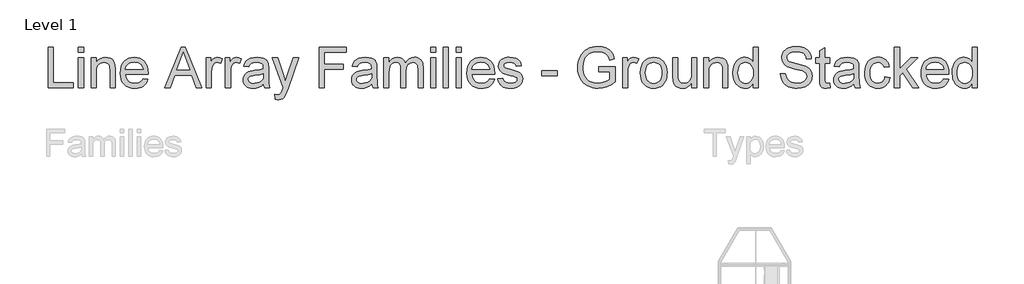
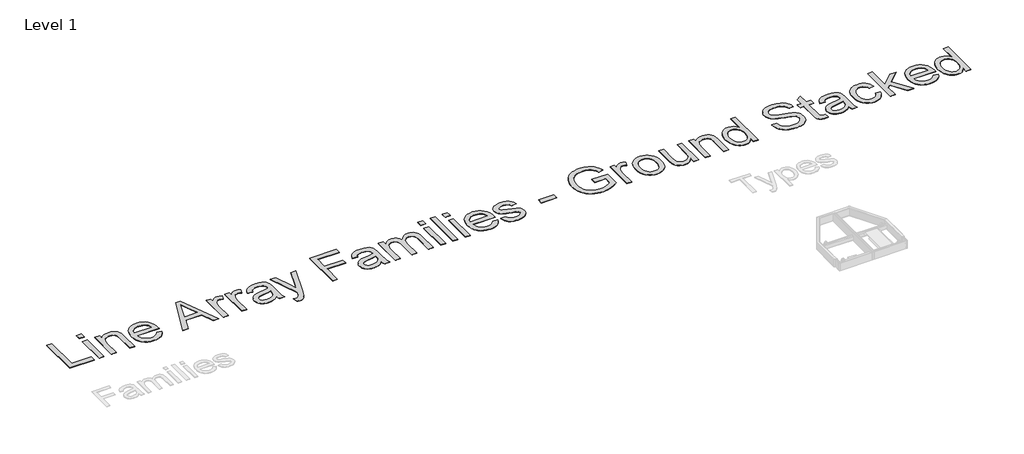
# One storey, part 3 of 7: 1 proxy.
"""IFC4 building model written with IfcOpenShell, lengths in millimetres."""

from ifc_helpers import new_model, si_unit, origin, origin_with_axes, place, context, project, spatial, polyline, outline, extrude, element, save

model = new_model("IFC4")

# Units and contexts
model_context = context("Model", 3, world=origin())
ifc_project = project(units=[si_unit("LENGTHUNIT", "METRE", prefix="MILLI")], contexts=[model_context])

# Site, building, storey
site = spatial("IfcSite", under=ifc_project)
building = spatial("IfcBuilding", under=site)
storey = spatial("IfcBuildingStorey", under=building, Name="Level 1", Elevation=0.0)

# Proxy
placement = place(None, origin())
element("IfcBuildingElementProxy", 1, Name="600mm Arial", ObjectType="600mm Arial", at=placement, inside=storey, context=model_context, shape_type="SweptSolid", body=[
    extrude(outline(polyline([(-21034.9539913, -1748.6945164), (-21034.9539913, -1157.9252857), (-20961.1078374, -1157.9252857), (-20961.1078374, -1674.8483626), (-20665.723222, -1674.8483626), (-20665.723222, -1748.6945164), (-21034.9539913, -1748.6945164)])), origin_with_axes(), (0.0, 0.0, 1.0), 5.0),
    extrude(outline(polyline([(-20591.8770682, -1231.7714395), (-20591.8770682, -1157.9252857), (-20518.0309143, -1157.9252857), (-20518.0309143, -1231.7714395), (-20591.8770682, -1231.7714395)])), origin_with_axes(), (0.0, 0.0, 1.0), 5.0),
    extrude(outline(polyline([(-20591.8770682, -1748.6945164), (-20591.8770682, -1314.8483626), (-20518.0309143, -1314.8483626), (-20518.0309143, -1748.6945164), (-20591.8770682, -1748.6945164)])), origin_with_axes(), (0.0, 0.0, 1.0), 5.0),
    extrude(outline(polyline([(-20407.2616836, -1748.6945164), (-20407.2616836, -1314.8483626), (-20333.4155297, -1314.8483626), (-20333.4155297, -1375.4252857), (-20307.7604817, -1344.8844203), (-20276.9491836, -1323.0695164), (-20240.9816355, -1309.9805741), (-20199.8578374, -1305.6175934), (-20163.457597, -1309.1332184), (-20130.1222605, -1319.6800934), (-20102.3217797, -1335.9421126), (-20082.5261067, -1356.6031703), (-20069.0946163, -1381.6091799), (-20060.3866836, -1410.9060549), (-20056.4924528, -1482.3002857), (-20056.4924528, -1748.6945164), (-20130.3386067, -1748.6945164), (-20130.3386067, -1492.2522087), (-20132.4660105, -1454.0671126), (-20138.848222, -1426.9156703), (-20150.6210586, -1407.4625453), (-20168.9203374, -1392.372401), (-20192.3758663, -1382.6909107), (-20219.6174528, -1379.4637472), (-20242.0408302, -1381.2756462), (-20262.8686547, -1386.7113434), (-20282.1009264, -1395.7708385), (-20299.7376451, -1408.4541318), (-20314.4717196, -1426.2035309), (-20324.9960586, -1450.4613434), (-20331.3106619, -1481.2275693), (-20333.4155297, -1518.5022087), (-20333.4155297, -1748.6945164), (-20407.2616836, -1748.6945164)])), origin_with_axes(), (0.0, 0.0, 1.0), 5.0),
    extrude(outline(polyline([(-19651.2039913, -1619.4637472), (-19578.8001451, -1628.6945164), (-19589.9014071, -1657.6939155), (-19604.8878855, -1683.2498049), (-19623.7595802, -1705.3621847), (-19646.5164913, -1724.0310549), (-19672.9242437, -1738.8597809), (-19702.7484624, -1749.451728), (-19735.9891475, -1755.8068962), (-19772.646299, -1757.9252857), (-19818.4666115, -1754.2699371), (-19859.2929336, -1743.3038914), (-19895.1252653, -1725.0271486), (-19925.9636067, -1699.4397087), (-19950.7622845, -1667.2537111), (-19968.4756259, -1629.1812953), (-19979.1036307, -1585.2224611), (-19982.646299, -1535.3772087), (-19979.067573, -1483.841752), (-19968.3313951, -1438.4180741), (-19950.4377653, -1399.1061751), (-19925.3866836, -1365.9060549), (-19894.629472, -1339.529853), (-19859.6174528, -1320.6897087), (-19820.3506259, -1309.3856222), (-19776.8289913, -1305.6175934), (-19734.7090994, -1309.3766078), (-19696.6186547, -1320.653651), (-19662.5576571, -1339.4487232), (-19632.5261067, -1365.7618241), (-19608.0113831, -1398.8898289), (-19590.5008663, -1438.1296126), (-19579.9945562, -1483.4811751), (-19576.4924528, -1534.9445164), (-19576.9251451, -1554.8483626), (-19908.8001451, -1554.8483626), (-19904.5228014, -1584.3165116), (-19896.0176932, -1610.1248049), (-19883.2848206, -1632.2732424), (-19866.3241836, -1650.7618241), (-19846.0732821, -1665.3381462), (-19823.4696163, -1675.7498049), (-19798.513186, -1681.9968001), (-19771.2039913, -1684.0791318), (-19731.9011067, -1680.2209587), (-19698.8001451, -1668.6464395), (-19671.9011067, -1648.6344203), (-19651.2039913, -1619.4637472)]), holes=[polyline([(-19908.8001451, -1481.0022087), (-19650.3386067, -1481.0022087), (-19660.3265874, -1441.9877857), (-19668.9173326, -1426.6452376), (-19679.9059143, -1414.0791318), (-19700.0441355, -1398.934901), (-19722.958799, -1388.1175934), (-19748.6499047, -1381.6272087), (-19777.1174528, -1379.4637472), (-19803.0834985, -1381.1900092), (-19826.895097, -1386.3687953), (-19848.5522485, -1395.0001054), (-19868.0549528, -1407.0839395), (-19884.4206379, -1422.0614034), (-19896.6667317, -1439.373603), (-19904.7932341, -1459.0205381), (-19908.8001451, -1481.0022087)])]), origin_with_axes(), (0.0, 0.0, 1.0), 5.0),
    extrude(outline(polyline([(-19331.4443759, -1748.6945164), (-19095.6270682, -1157.9252857), (-19032.7424528, -1157.9252857), (-18796.9251451, -1748.6945164), (-18874.9539913, -1748.6945164), (-18942.598222, -1564.0791318), (-19185.9155297, -1564.0791318), (-19253.4155297, -1748.6945164), (-19331.4443759, -1748.6945164)]), holes=[polyline([(-19158.8001451, -1490.232978), (-18969.5693759, -1490.232978), (-19022.7905297, -1344.9925934), (-19064.1847605, -1231.7714395), (-19100.9636067, -1332.3002857), (-19158.8001451, -1490.232978)])]), origin_with_axes(), (0.0, 0.0, 1.0), 5.0),
    extrude(outline(polyline([(-18727.2616836, -1748.6945164), (-18727.2616836, -1314.8483626), (-18662.646299, -1314.8483626), (-18662.646299, -1379.0310549), (-18638.7761067, -1341.8195164), (-18616.7809143, -1319.8964395), (-18594.7136067, -1309.1873049), (-18570.6270682, -1305.6175934), (-18533.848222, -1311.3147087), (-18496.4924528, -1328.4060549), (-18521.1559143, -1394.607978), (-18547.1174528, -1383.2498049), (-18573.0789913, -1379.4637472), (-18595.1282701, -1383.1055741), (-18614.833799, -1394.0310549), (-18630.7532701, -1411.4108626), (-18641.4443759, -1434.4156703), (-18650.4227413, -1475.6656703), (-18653.4155297, -1520.6656703), (-18653.4155297, -1748.6945164), (-18727.2616836, -1748.6945164)])), origin_with_axes(), (0.0, 0.0, 1.0), 5.0),
    extrude(outline(polyline([(-18450.3386067, -1748.6945164), (-18450.3386067, -1314.8483626), (-18385.723222, -1314.8483626), (-18385.723222, -1379.0310549), (-18361.8530297, -1341.8195164), (-18339.8578374, -1319.8964395), (-18317.7905297, -1309.1873049), (-18293.7039913, -1305.6175934), (-18256.9251451, -1311.3147087), (-18219.5693759, -1328.4060549), (-18244.2328374, -1394.607978), (-18270.1943759, -1383.2498049), (-18296.1559143, -1379.4637472), (-18318.2051932, -1383.1055741), (-18337.910722, -1394.0310549), (-18353.8301932, -1411.4108626), (-18364.521299, -1434.4156703), (-18373.4996643, -1475.6656703), (-18376.4924528, -1520.6656703), (-18376.4924528, -1748.6945164), (-18450.3386067, -1748.6945164)])), origin_with_axes(), (0.0, 0.0, 1.0), 5.0),
    extrude(outline(polyline([(-17896.4924528, -1693.309901), (-17931.7749047, -1723.5623049), (-17968.1030297, -1743.357978), (-18006.3061547, -1754.2834587), (-18047.2136067, -1757.9252857), (-18080.0937148, -1755.7347809), (-18108.926347, -1749.1632664), (-18133.7115033, -1738.2107424), (-18154.4491836, -1722.8772087), (-18170.8238831, -1704.1362232), (-18182.520097, -1682.9613434), (-18189.5378254, -1659.3525693), (-18191.8770682, -1633.309901), (-18188.3434143, -1602.6969203), (-18177.7424528, -1574.8964395), (-18161.3902893, -1551.0983626), (-18140.6030297, -1532.4925934), (-18116.1739432, -1518.4300934), (-18088.896299, -1508.2618241), (-18025.0020682, -1497.1560549), (-17949.4972605, -1485.4733626), (-17896.9251451, -1471.7714395), (-17896.4924528, -1455.3291318), (-17901.5765874, -1422.372401), (-17907.9317557, -1410.1668722), (-17916.8289913, -1400.809901), (-17932.207597, -1391.4709587), (-17950.9395682, -1384.8002857), (-17998.4636067, -1379.4637472), (-18042.4539913, -1383.0154299), (-18073.1751451, -1393.670478), (-18094.1246643, -1413.3760068), (-18108.8001451, -1444.0791318), (-18182.646299, -1434.8483626), (-18169.8277893, -1394.4637472), (-18150.6991836, -1362.732978), (-18123.4756259, -1338.466151), (-18086.3722605, -1320.4733626), (-18040.9936547, -1309.3315357), (-17988.9443759, -1305.6175934), (-17939.0225009, -1308.8988434), (-17899.4491836, -1318.7425934), (-17869.6114432, -1333.544276), (-17848.896299, -1351.6993241), (-17835.1583182, -1374.1452376), (-17826.2520682, -1401.8195164), (-17822.646299, -1466.434901), (-17822.646299, -1558.309901), (-17818.896299, -1686.6031703), (-17813.3434143, -1718.3159107), (-17804.1847605, -1748.6945164), (-17878.0309143, -1748.6945164), (-17889.8578374, -1723.0214395), (-17896.4924528, -1693.309901)]), holes=[polyline([(-17896.4924528, -1545.6175934), (-17946.1078374, -1557.9132664), (-18015.6270682, -1568.2618241), (-18079.160722, -1580.232978), (-18095.693174, -1588.4180741), (-18107.9347605, -1599.7041318), (-18115.5068759, -1613.2257664), (-18118.0309143, -1628.1175934), (-18112.5321163, -1650.076728), (-18096.035722, -1668.0695164), (-18068.9023086, -1680.076728), (-18031.4924528, -1684.0791318), (-17991.8289913, -1679.6620645), (-17956.7809143, -1666.4108626), (-17928.3674528, -1646.8856222), (-17908.6078374, -1623.6464395), (-17899.8458182, -1599.7041318), (-17896.9251451, -1566.5310549), (-17896.4924528, -1545.6175934)])]), origin_with_axes(), (0.0, 0.0, 1.0), 5.0),
    extrude(outline(polyline([(-17721.1078374, -1914.8483626), (-17730.3386067, -1843.7425934), (-17692.8386067, -1850.232978), (-17673.115049, -1848.1957184), (-17657.7905297, -1842.0839395), (-17645.8554336, -1832.3303337), (-17636.3001451, -1819.3675934), (-17616.1078374, -1764.9925934), (-17610.3386067, -1747.107978), (-17767.2616836, -1314.8483626), (-17689.3770682, -1314.8483626), (-17606.1559143, -1555.7137472), (-17577.1655297, -1652.059901), (-17548.1751451, -1566.9637472), (-17462.646299, -1314.8483626), (-17385.3386067, -1314.8483626), (-17536.348222, -1759.0791318), (-17575.5789913, -1855.4252857), (-17595.6631259, -1886.1824972), (-17618.4155297, -1907.4925934), (-17644.8458182, -1919.9324972), (-17675.9636067, -1924.0791318), (-17697.3458182, -1921.7714395), (-17721.1078374, -1914.8483626)])), origin_with_axes(), (0.0, 0.0, 1.0), 5.0),
    extrude(outline(polyline([(-17084.1847605, -1748.6945164), (-17084.1847605, -1157.9252857), (-16687.2616836, -1157.9252857), (-16687.2616836, -1231.7714395), (-17010.3386067, -1231.7714395), (-17010.3386067, -1407.1560549), (-16733.4155297, -1407.1560549), (-16733.4155297, -1481.0022087), (-17010.3386067, -1481.0022087), (-17010.3386067, -1748.6945164), (-17084.1847605, -1748.6945164)])), origin_with_axes(), (0.0, 0.0, 1.0), 5.0),
    extrude(outline(polyline([(-16318.0309143, -1693.309901), (-16353.3133663, -1723.5623049), (-16389.6414913, -1743.357978), (-16427.8446163, -1754.2834587), (-16468.7520682, -1757.9252857), (-16501.6321764, -1755.7347809), (-16530.4648086, -1749.1632664), (-16555.2499648, -1738.2107424), (-16575.9876451, -1722.8772087), (-16592.3623446, -1704.1362232), (-16604.0585586, -1682.9613434), (-16611.0762869, -1659.3525693), (-16613.4155297, -1633.309901), (-16609.8818759, -1602.6969203), (-16599.2809143, -1574.8964395), (-16582.9287509, -1551.0983626), (-16562.1414913, -1532.4925934), (-16537.7124047, -1518.4300934), (-16510.4347605, -1508.2618241), (-16446.5405297, -1497.1560549), (-16371.035722, -1485.4733626), (-16318.4636067, -1471.7714395), (-16318.0309143, -1455.3291318), (-16323.115049, -1422.372401), (-16329.4702172, -1410.1668722), (-16338.3674528, -1400.809901), (-16353.7460586, -1391.4709587), (-16372.4780297, -1384.8002857), (-16420.0020682, -1379.4637472), (-16463.9924528, -1383.0154299), (-16494.7136067, -1393.670478), (-16515.6631259, -1413.3760068), (-16530.3386067, -1444.0791318), (-16604.1847605, -1434.8483626), (-16591.3662509, -1394.4637472), (-16572.2376451, -1362.732978), (-16545.0140874, -1338.466151), (-16507.910722, -1320.4733626), (-16462.5321163, -1309.3315357), (-16410.4828374, -1305.6175934), (-16360.5609624, -1308.8988434), (-16320.9876451, -1318.7425934), (-16291.1499047, -1333.544276), (-16270.4347605, -1351.6993241), (-16256.6967797, -1374.1452376), (-16247.7905297, -1401.8195164), (-16244.1847605, -1466.434901), (-16244.1847605, -1558.309901), (-16240.4347605, -1686.6031703), (-16234.8818759, -1718.3159107), (-16225.723222, -1748.6945164), (-16299.5693759, -1748.6945164), (-16311.396299, -1723.0214395), (-16318.0309143, -1693.309901)]), holes=[polyline([(-16318.0309143, -1545.6175934), (-16367.646299, -1557.9132664), (-16437.1655297, -1568.2618241), (-16500.6991836, -1580.232978), (-16517.2316355, -1588.4180741), (-16529.473222, -1599.7041318), (-16537.0453374, -1613.2257664), (-16539.5693759, -1628.1175934), (-16534.0705778, -1650.076728), (-16517.5741836, -1668.0695164), (-16490.4407701, -1680.076728), (-16453.0309143, -1684.0791318), (-16413.3674528, -1679.6620645), (-16378.3193759, -1666.4108626), (-16349.9059143, -1646.8856222), (-16330.146299, -1623.6464395), (-16321.3842797, -1599.7041318), (-16318.4636067, -1566.5310549), (-16318.0309143, -1545.6175934)])]), origin_with_axes(), (0.0, 0.0, 1.0), 5.0),
    extrude(outline(polyline([(-16142.646299, -1748.6945164), (-16142.646299, -1314.8483626), (-16068.8001451, -1314.8483626), (-16068.8001451, -1386.2425934), (-16046.5886067, -1353.4481222), (-16018.0309143, -1327.7570164), (-15984.1006259, -1311.1524491), (-15945.771299, -1305.6175934), (-15904.7015874, -1311.2606222), (-15887.2226211, -1318.3144083), (-15871.7809143, -1328.1897087), (-15847.1895682, -1355.2870645), (-15831.1078374, -1391.434901), (-15804.1907701, -1353.8898289), (-15773.4876451, -1327.0719203), (-15738.9984624, -1310.9811751), (-15700.723222, -1305.6175934), (-15671.1604216, -1307.8486631), (-15645.2124047, -1314.5418722), (-15622.8791716, -1325.6972208), (-15604.160722, -1341.3147087), (-15589.3635466, -1361.5746246), (-15578.7941355, -1386.6572568), (-15572.4524889, -1416.5626054), (-15570.3386067, -1451.2906703), (-15570.3386067, -1748.6945164), (-15644.1847605, -1748.6945164), (-15644.1847605, -1483.0214395), (-15645.8975009, -1446.1885068), (-15651.035722, -1421.3627857), (-15660.6631259, -1404.3615837), (-15675.8434143, -1391.0022087), (-15695.3686547, -1382.3483626), (-15718.0309143, -1379.4637472), (-15738.9578975, -1381.3117039), (-15758.036924, -1386.8555741), (-15775.2679937, -1396.0953578), (-15790.6511067, -1409.0310549), (-15803.3028494, -1426.0412712), (-15812.3398086, -1447.5046126), (-15817.7619841, -1473.4210789), (-15819.5693759, -1503.7906703), (-15819.5693759, -1748.6945164), (-15893.4155297, -1748.6945164), (-15893.4155297, -1474.8002857), (-15897.6883663, -1433.045478), (-15910.5068759, -1403.2618241), (-15920.4182341, -1392.8501655), (-15933.0609624, -1385.4132664), (-15948.435061, -1380.951127), (-15966.5405297, -1379.4637472), (-15994.990049, -1383.4300934), (-16021.2039913, -1395.3291318), (-16042.8386067, -1414.872401), (-16057.5501451, -1441.7714395), (-16065.9876451, -1479.091151), (-16068.8001451, -1529.8964395), (-16068.8001451, -1748.6945164), (-16142.646299, -1748.6945164)])), origin_with_axes(), (0.0, 0.0, 1.0), 5.0),
    extrude(outline(polyline([(-15459.5693759, -1231.7714395), (-15459.5693759, -1157.9252857), (-15385.723222, -1157.9252857), (-15385.723222, -1231.7714395), (-15459.5693759, -1231.7714395)])), origin_with_axes(), (0.0, 0.0, 1.0), 5.0),
    extrude(outline(polyline([(-15459.5693759, -1748.6945164), (-15459.5693759, -1314.8483626), (-15385.723222, -1314.8483626), (-15385.723222, -1748.6945164), (-15459.5693759, -1748.6945164)])), origin_with_axes(), (0.0, 0.0, 1.0), 5.0),
    extrude(outline(polyline([(-15274.9539913, -1748.6945164), (-15274.9539913, -1157.9252857), (-15201.1078374, -1157.9252857), (-15201.1078374, -1748.6945164), (-15274.9539913, -1748.6945164)])), origin_with_axes(), (0.0, 0.0, 1.0), 5.0),
    extrude(outline(polyline([(-15090.3386067, -1748.6945164), (-15090.3386067, -1314.8483626), (-15016.4924528, -1314.8483626), (-15016.4924528, -1748.6945164), (-15090.3386067, -1748.6945164)])), origin_with_axes(), (0.0, 0.0, 1.0), 5.0),
    extrude(outline(polyline([(-15090.3386067, -1231.7714395), (-15090.3386067, -1157.9252857), (-15016.4924528, -1157.9252857), (-15016.4924528, -1231.7714395), (-15090.3386067, -1231.7714395)])), origin_with_axes(), (0.0, 0.0, 1.0), 5.0),
    extrude(outline(polyline([(-14601.973222, -1619.4637472), (-14529.5693759, -1628.6945164), (-14540.6706379, -1657.6939155), (-14555.6571163, -1683.2498049), (-14574.528811, -1705.3621847), (-14597.285722, -1724.0310549), (-14623.6934744, -1738.8597809), (-14653.5176932, -1749.451728), (-14686.7583783, -1755.8068962), (-14723.4155297, -1757.9252857), (-14769.2358422, -1754.2699371), (-14810.0621643, -1743.3038914), (-14845.8944961, -1725.0271486), (-14876.7328374, -1699.4397087), (-14901.5315153, -1667.2537111), (-14919.2448567, -1629.1812953), (-14929.8728615, -1585.2224611), (-14933.4155297, -1535.3772087), (-14929.8368038, -1483.841752), (-14919.1006259, -1438.4180741), (-14901.2069961, -1399.1061751), (-14876.1559143, -1365.9060549), (-14845.3987028, -1339.529853), (-14810.3866836, -1320.6897087), (-14771.1198567, -1309.3856222), (-14727.598222, -1305.6175934), (-14685.4783302, -1309.3766078), (-14647.3878855, -1320.653651), (-14613.3268879, -1339.4487232), (-14583.2953374, -1365.7618241), (-14558.7806139, -1398.8898289), (-14541.270097, -1438.1296126), (-14530.7637869, -1483.4811751), (-14527.2616836, -1534.9445164), (-14527.6943759, -1554.8483626), (-14859.5693759, -1554.8483626), (-14855.2920321, -1584.3165116), (-14846.786924, -1610.1248049), (-14834.0540514, -1632.2732424), (-14817.0934143, -1650.7618241), (-14796.8425129, -1665.3381462), (-14774.238847, -1675.7498049), (-14749.2824167, -1681.9968001), (-14721.973222, -1684.0791318), (-14682.6703374, -1680.2209587), (-14649.5693759, -1668.6464395), (-14622.6703374, -1648.6344203), (-14601.973222, -1619.4637472)]), holes=[polyline([(-14859.5693759, -1481.0022087), (-14601.1078374, -1481.0022087), (-14611.0958182, -1441.9877857), (-14619.6865634, -1426.6452376), (-14630.6751451, -1414.0791318), (-14650.8133663, -1398.934901), (-14673.7280297, -1388.1175934), (-14699.4191355, -1381.6272087), (-14727.8866836, -1379.4637472), (-14753.8527292, -1381.1900092), (-14777.6643278, -1386.3687953), (-14799.3214792, -1395.0001054), (-14818.8241836, -1407.0839395), (-14835.1898687, -1422.0614034), (-14847.4359624, -1439.373603), (-14855.5624648, -1459.0205381), (-14859.5693759, -1481.0022087)])]), origin_with_axes(), (0.0, 0.0, 1.0), 5.0),
    extrude(outline(polyline([(-14481.1078374, -1619.4637472), (-14407.2616836, -1610.232978), (-14402.7995442, -1627.0719203), (-14395.615049, -1641.8195164), (-14385.708198, -1654.4757664), (-14373.0789913, -1665.0406703), (-14357.6913711, -1673.3699972), (-14339.5092797, -1679.3195164), (-14294.7616836, -1684.0791318), (-14250.5549528, -1679.716151), (-14233.3734624, -1674.2624251), (-14219.473222, -1666.6272087), (-14201.083799, -1647.6608626), (-14194.9539913, -1625.6656703), (-14196.4954576, -1615.6957184), (-14201.1198567, -1606.8435549), (-14219.6174528, -1592.4925934), (-14247.2737028, -1583.1175934), (-14295.6270682, -1571.434901), (-14363.0188951, -1551.9457184), (-14406.8289913, -1535.3050934), (-14434.9720201, -1517.1500453), (-14455.3626451, -1493.1175934), (-14467.7484624, -1464.7401895), (-14471.8770682, -1433.5502857), (-14468.5597605, -1404.9385068), (-14458.6078374, -1378.5262472), (-14442.9227413, -1355.3591799), (-14422.4059143, -1336.482978), (-14402.0152893, -1324.6019684), (-14375.458799, -1314.6320164), (-14344.755674, -1307.8711991), (-14311.9251451, -1305.6175934), (-14263.8602413, -1309.2413914), (-14222.0693759, -1320.1127857), (-14188.4636067, -1337.1680741), (-14164.9539913, -1359.3435549), (-14149.3770682, -1388.279853), (-14139.5693759, -1425.6175934), (-14213.4155297, -1434.8483626), (-14222.7364432, -1411.6091799), (-14241.1799528, -1394.1031703), (-14268.926347, -1383.123603), (-14306.1559143, -1379.4637472), (-14348.5597605, -1382.9613434), (-14376.8289913, -1393.4541318), (-14392.7304336, -1408.5983626), (-14398.0309143, -1426.0502857), (-14395.8313951, -1437.4084587), (-14389.2328374, -1447.5406703), (-14377.9467797, -1456.591151), (-14361.6847605, -1463.8387472), (-14298.0789913, -1479.559901), (-14189.6895682, -1514.3195164), (-14161.0597605, -1530.9421126), (-14139.3530297, -1553.6945164), (-14125.6691355, -1582.6488434), (-14121.1078374, -1617.8772087), (-14126.4624047, -1654.295478), (-14142.5261067, -1688.5502857), (-14168.6859624, -1717.9553337), (-14204.3289913, -1739.8243241), (-14247.3818759, -1753.4000453), (-14295.771299, -1757.9252857), (-14335.5158903, -1755.7437953), (-14370.2304336, -1749.1993241), (-14399.9149288, -1738.2918722), (-14424.5693759, -1723.0214395), (-14444.707597, -1703.4601414), (-14460.8434143, -1679.6800934), (-14472.9768278, -1651.6812953), (-14481.1078374, -1619.4637472)])), origin_with_axes(), (0.0, 0.0, 1.0), 5.0),
    extrude(outline(polyline([(-13844.1847605, -1573.309901), (-13844.1847605, -1499.4637472), (-13613.4155297, -1499.4637472), (-13613.4155297, -1573.309901), (-13844.1847605, -1573.309901)])), origin_with_axes(), (0.0, 0.0, 1.0), 5.0),
    extrude(outline(polyline([(-13013.4155297, -1517.9252857), (-13013.4155297, -1444.0791318), (-12773.4155297, -1444.0791318), (-12773.4155297, -1664.8964395), (-12831.738847, -1705.4613434), (-12891.9011067, -1734.559901), (-12953.7580778, -1752.0839395), (-13017.1655297, -1757.9252857), (-13059.5828975, -1755.6040717), (-13100.0080778, -1748.6404299), (-13138.4410706, -1737.0343602), (-13174.8818759, -1720.7858626), (-13208.1541115, -1700.1383265), (-13237.0813951, -1675.3351414), (-13261.6637268, -1646.3763073), (-13281.9011067, -1613.2618241), (-13297.7078975, -1577.0508866), (-13308.9984624, -1538.8026895), (-13315.7728014, -1498.5172328), (-13318.0309143, -1456.1945164), (-13315.7818158, -1413.8672929), (-13309.0345201, -1372.9913914), (-13297.7890273, -1333.5668121), (-13282.0453374, -1295.5935549), (-13262.0828975, -1260.7392881), (-13238.1811547, -1230.6716799), (-13210.3401091, -1205.3907304), (-13178.5597605, -1184.8964395), (-13143.5297124, -1169.0580982), (-13105.9395682, -1157.7449972), (-13065.7893278, -1150.9571366), (-13023.0789913, -1148.6945164), (-12962.2496643, -1153.9409107), (-12907.5501451, -1169.6800934), (-12861.4864432, -1194.7762472), (-12842.6327773, -1210.4072568), (-12826.5645682, -1228.0935549), (-12800.7292317, -1271.2365837), (-12781.9251451, -1325.809901), (-12850.0020682, -1344.9925934), (-12865.2003855, -1306.0683145), (-12883.6799528, -1276.6993241), (-12908.1270682, -1254.559901), (-12941.2280297, -1237.3243241), (-12980.693174, -1226.2365837), (-13024.2328374, -1222.5406703), (-13075.2003855, -1226.5250453), (-13118.7761067, -1238.4781703), (-13154.7977413, -1256.903651), (-13183.1030297, -1280.3050934), (-13204.8277893, -1307.4745645), (-13221.1078374, -1337.2041318), (-13238.4155297, -1392.9493241), (-13244.1847605, -1453.1656703), (-13242.4494841, -1490.0391679), (-13237.2436547, -1523.7846607), (-13228.5672725, -1554.4021486), (-13216.4203374, -1581.8916318), (-13200.9606018, -1606.1494443), (-13182.3458182, -1627.0719203), (-13160.5759865, -1644.6590597), (-13135.6511067, -1658.9108626), (-13108.7385466, -1669.9219804), (-13081.005674, -1677.7870645), (-13052.4524889, -1682.506115), (-13023.0789913, -1684.0791318), (-12971.9311547, -1679.3375453), (-12922.0453374, -1665.1127857), (-12878.7220201, -1645.5154299), (-12847.2616836, -1624.6560549), (-12847.2616836, -1517.9252857), (-13013.4155297, -1517.9252857)])), origin_with_axes(), (0.0, 0.0, 1.0), 5.0),
    extrude(outline(polyline([(-12662.646299, -1748.6945164), (-12662.646299, -1314.8483626), (-12598.0309143, -1314.8483626), (-12598.0309143, -1379.0310549), (-12574.160722, -1341.8195164), (-12552.1655297, -1319.8964395), (-12530.098222, -1309.1873049), (-12506.0116836, -1305.6175934), (-12469.2328374, -1311.3147087), (-12431.8770682, -1328.4060549), (-12456.5405297, -1394.607978), (-12482.5020682, -1383.2498049), (-12508.4636067, -1379.4637472), (-12530.5128855, -1383.1055741), (-12550.2184143, -1394.0310549), (-12566.1378855, -1411.4108626), (-12576.8289913, -1434.4156703), (-12585.8073567, -1475.6656703), (-12588.8001451, -1520.6656703), (-12588.8001451, -1748.6945164), (-12662.646299, -1748.6945164)])), origin_with_axes(), (0.0, 0.0, 1.0), 5.0),
    extrude(outline(polyline([(-12404.1847605, -1531.7714395), (-12400.1913711, -1475.5845405), (-12388.2112028, -1427.1680741), (-12368.2442557, -1386.5220405), (-12340.2905297, -1353.6464395), (-12312.1475009, -1332.6338193), (-12281.083799, -1317.6248049), (-12247.099424, -1308.6193962), (-12210.1943759, -1305.6175934), (-12169.4536908, -1309.2729419), (-12132.6162509, -1320.2389876), (-12099.6820562, -1338.5157304), (-12070.6511067, -1364.1031703), (-12046.9566956, -1396.1359227), (-12030.0321163, -1433.748603), (-12019.8773687, -1476.9412111), (-12016.4924528, -1525.7137472), (-12017.988847, -1565.2419924), (-12022.4780297, -1600.3171126), (-12029.9600009, -1630.9391078), (-12040.4347605, -1657.107978), (-12053.7715994, -1679.7116438), (-12069.8398086, -1699.638026), (-12088.6393879, -1716.8871246), (-12110.1703374, -1731.4589395), (-12133.5943158, -1743.0379659), (-12158.0729817, -1751.3086991), (-12183.606335, -1756.271139), (-12210.1943759, -1757.9252857), (-12251.5300129, -1754.2834587), (-12288.7100009, -1743.357978), (-12321.7343398, -1725.1488434), (-12350.6030297, -1699.6560549), (-12374.0450369, -1667.3123049), (-12390.7893278, -1628.5502857), (-12400.8359023, -1583.3699972), (-12404.1847605, -1531.7714395)]), holes=[polyline([(-12330.3386067, -1531.6272087), (-12328.2021884, -1567.4460188), (-12321.7929336, -1598.4601414), (-12311.1108422, -1624.6695765), (-12296.1559143, -1646.0743241), (-12277.9648086, -1662.7014275), (-12257.5741836, -1674.5779299), (-12234.9840393, -1681.7038313), (-12210.1943759, -1684.0791318), (-12185.5309143, -1681.6903097), (-12163.0309143, -1674.5238434), (-12142.6943759, -1662.5797328), (-12124.521299, -1645.857978), (-12109.5663711, -1624.2413914), (-12098.8842797, -1597.6127857), (-12092.4750249, -1565.9721607), (-12090.3386067, -1529.3195164), (-12092.4885466, -1494.6365236), (-12098.9383663, -1464.4336991), (-12109.6880658, -1438.7110429), (-12124.7376451, -1417.4685549), (-12142.9783302, -1400.8414515), (-12163.301347, -1388.9649491), (-12185.7066956, -1381.8390477), (-12210.1943759, -1379.4637472), (-12234.9840393, -1381.8300333), (-12257.5741836, -1388.9288914), (-12277.9648086, -1400.7603217), (-12296.1559143, -1417.3243241), (-12311.1108422, -1438.6659708), (-12321.7929336, -1464.8303337), (-12328.2021884, -1495.8174131), (-12330.3386067, -1531.6272087)])]), origin_with_axes(), (0.0, 0.0, 1.0), 5.0),
    extrude(outline(polyline([(-11656.4924528, -1748.6945164), (-11656.4924528, -1674.1272087), (-11683.2112028, -1710.7888674), (-11714.3289913, -1736.9757664), (-11749.8458182, -1752.6879059), (-11789.7616836, -1757.9252857), (-11825.7292317, -1754.247401), (-11859.208799, -1743.2137472), (-11887.2977413, -1726.6272087), (-11907.0934143, -1706.2906703), (-11920.4167317, -1681.591151), (-11929.0886067, -1651.9156703), (-11933.4155297, -1583.2618241), (-11933.4155297, -1314.8483626), (-11859.5693759, -1314.8483626), (-11859.5693759, -1548.5022087), (-11858.4515874, -1595.232978), (-11855.098222, -1623.7906703), (-11844.3350009, -1648.904853), (-11825.8914913, -1667.997401), (-11800.9936547, -1680.0586991), (-11770.8674528, -1684.0791318), (-11739.0104817, -1679.9685549), (-11709.208799, -1667.6368241), (-11684.6354817, -1648.2197568), (-11668.4636067, -1622.8531703), (-11659.4852413, -1588.1115837), (-11656.4924528, -1540.5695164), (-11656.4924528, -1314.8483626), (-11582.646299, -1314.8483626), (-11582.646299, -1748.6945164), (-11656.4924528, -1748.6945164)])), origin_with_axes(), (0.0, 0.0, 1.0), 5.0),
    extrude(outline(polyline([(-11481.1078374, -1748.6945164), (-11481.1078374, -1314.8483626), (-11407.2616836, -1314.8483626), (-11407.2616836, -1375.4252857), (-11381.6066355, -1344.8844203), (-11350.7953374, -1323.0695164), (-11314.8277893, -1309.9805741), (-11273.7039913, -1305.6175934), (-11237.3037509, -1309.1332184), (-11203.9684143, -1319.6800934), (-11176.1679336, -1335.9421126), (-11156.3722605, -1356.6031703), (-11142.9407701, -1381.6091799), (-11134.2328374, -1410.9060549), (-11130.3386067, -1482.3002857), (-11130.3386067, -1748.6945164), (-11204.1847605, -1748.6945164), (-11204.1847605, -1492.2522087), (-11206.3121643, -1454.0671126), (-11212.6943759, -1426.9156703), (-11224.4672124, -1407.4625453), (-11242.7664913, -1392.372401), (-11266.2220201, -1382.6909107), (-11293.4636067, -1379.4637472), (-11315.8869841, -1381.2756462), (-11336.7148086, -1386.7113434), (-11355.9470802, -1395.7708385), (-11373.583799, -1408.4541318), (-11388.3178735, -1426.2035309), (-11398.8422124, -1450.4613434), (-11405.1568158, -1481.2275693), (-11407.2616836, -1518.5022087), (-11407.2616836, -1748.6945164), (-11481.1078374, -1748.6945164)])), origin_with_axes(), (0.0, 0.0, 1.0), 5.0),
    extrude(outline(polyline([(-10761.1078374, -1748.6945164), (-10761.1078374, -1679.0310549), (-10783.2021884, -1713.5472809), (-10809.9660105, -1738.201728), (-10841.3993038, -1752.9943962), (-10877.5020682, -1757.9252857), (-10901.8770682, -1756.1404299), (-10925.2424528, -1750.7858626), (-10947.598222, -1741.8615837), (-10968.9443759, -1729.3675934), (-10988.613847, -1713.67799), (-11005.9395682, -1695.1668722), (-11020.9215393, -1673.83424), (-11033.5597605, -1649.6800934), (-11043.5928134, -1623.1641679), (-11050.7592797, -1594.7461991), (-11056.4924528, -1532.2041318), (-11051.2100009, -1470.4373049), (-11035.3626451, -1414.6560549), (-11023.4816355, -1389.8032905), (-11008.9684143, -1368.0334587), (-10991.8229817, -1349.3465597), (-10972.0453374, -1333.7425934), (-10950.3340994, -1321.4379059), (-10927.3878855, -1312.6488434), (-10903.2066956, -1307.3754059), (-10877.7905297, -1305.6175934), (-10841.660722, -1310.6476414), (-10809.7136067, -1325.7377857), (-10782.6342797, -1348.8687953), (-10761.1078374, -1378.0214395), (-10761.1078374, -1157.9252857), (-10687.2616836, -1157.9252857), (-10687.2616836, -1748.6945164), (-10761.1078374, -1748.6945164)]), holes=[polyline([(-10982.646299, -1531.9156703), (-10980.5639672, -1567.7254659), (-10974.316972, -1598.7125453), (-10963.9053134, -1624.8769083), (-10949.3289913, -1646.2185549), (-10931.9221403, -1662.7825573), (-10913.0188951, -1674.6139876), (-10892.6192557, -1681.7128458), (-10870.723222, -1684.0791318), (-10848.7235225, -1681.8210188), (-10828.4455778, -1675.0466799), (-10809.8893879, -1663.756115), (-10793.0549528, -1647.9493241), (-10779.0780898, -1627.5001054), (-10769.0946163, -1602.2822568), (-10763.1045321, -1572.2957784), (-10761.1078374, -1537.5406703), (-10763.1405898, -1499.4367039), (-10769.238847, -1466.7594203), (-10779.4026091, -1439.5088193), (-10793.6318759, -1417.684901), (-10810.8359023, -1400.9631462), (-10829.9239432, -1389.0190357), (-10850.8959985, -1381.8525693), (-10873.7520682, -1379.4637472), (-10896.0807942, -1381.7579179), (-10916.4804336, -1388.6404299), (-10934.9509865, -1400.1112833), (-10951.4924528, -1416.170478), (-10965.1222605, -1437.1695765), (-10974.8578374, -1463.4601414), (-10980.6991836, -1495.0421727), (-10982.646299, -1531.9156703)])]), origin_with_axes(), (0.0, 0.0, 1.0), 5.0),
    extrude(outline(polyline([(-10364.1847605, -1545.6175934), (-10290.3386067, -1545.6175934), (-10281.865049, -1586.5971607), (-10266.5405297, -1619.5358626), (-10242.6342797, -1645.6776895), (-10208.4155297, -1666.2666318), (-10166.5886067, -1679.6260068), (-10119.8578374, -1684.0791318), (-10078.7160105, -1680.7077376), (-10042.6943759, -1670.5935549), (-10013.505674, -1654.5839395), (-9992.8626451, -1633.5262472), (-9980.5850009, -1609.3495645), (-9976.4924528, -1583.982978), (-9979.5573567, -1559.2654299), (-9988.7520682, -1537.9012472), (-10007.4299528, -1519.6740837), (-10038.9443759, -1504.3675934), (-10146.4684143, -1476.170478), (-10217.051347, -1457.5106222), (-10262.2136067, -1439.7522087), (-10298.974424, -1414.9084587), (-10325.0261067, -1384.8002857), (-10340.5489432, -1350.076728), (-10345.723222, -1311.3868241), (-10344.1231619, -1289.396139), (-10339.3229817, -1268.1356222), (-10331.3226812, -1247.6052736), (-10320.1222605, -1227.8050934), (-10305.8479216, -1209.5418722), (-10288.6258663, -1193.622401), (-10268.4560946, -1180.0466799), (-10245.3386067, -1168.8147087), (-10193.379472, -1153.7245645), (-10135.8674528, -1148.6945164), (-10073.5597605, -1153.9589395), (-10019.0405297, -1169.7522087), (-9995.1883663, -1181.5160309), (-9974.2568759, -1195.7498049), (-9956.2460586, -1212.4535309), (-9941.1559143, -1231.6272087), (-9929.1036307, -1252.7119443), (-9920.2063951, -1275.1488434), (-9914.4642076, -1298.9379059), (-9911.8770682, -1324.0791318), (-9985.723222, -1324.0791318), (-9990.6631259, -1300.5154299), (-9999.2809143, -1280.0166318), (-10011.5765874, -1262.5827376), (-10027.5501451, -1248.2137472), (-10047.4990634, -1236.981776), (-10071.7208182, -1228.9589395), (-10100.2154095, -1224.1452376), (-10132.9828374, -1222.5406703), (-10166.7959384, -1224.1272087), (-10195.6871643, -1228.8868241), (-10219.6565153, -1236.8195164), (-10238.7039913, -1247.9252857), (-10253.2172124, -1261.2756462), (-10263.583799, -1275.9421126), (-10269.8037509, -1291.9246847), (-10271.8770682, -1309.2233626), (-10265.9996643, -1337.6007664), (-10248.3674528, -1360.4252857), (-10232.177549, -1370.575526), (-10206.6847605, -1380.8339395), (-10127.7905297, -1401.6752857), (-10046.3722605, -1421.4709587), (-9997.1174528, -1438.7425934), (-9955.020097, -1465.5334587), (-9938.7445562, -1481.2816559), (-9925.6511067, -1498.5983626), (-9915.5865033, -1517.3934347), (-9908.3975009, -1537.576728), (-9902.646299, -1582.107978), (-9904.3004456, -1605.2074371), (-9909.2628855, -1627.6308145), (-9917.5336187, -1649.3781102), (-9929.1126451, -1670.4493241), (-9943.7971403, -1690.028651), (-9961.3842797, -1707.3002857), (-9981.8740634, -1722.264228), (-10005.2664913, -1734.920478), (-10030.8809744, -1744.9850813), (-10058.036924, -1752.1740837), (-10116.973222, -1757.9252857), (-10154.7481619, -1756.3748049), (-10189.3229817, -1751.7233626), (-10220.6976812, -1743.9709587), (-10248.8722605, -1733.1175934), (-10274.0179937, -1719.1452376), (-10296.3061547, -1702.0358626), (-10315.7367437, -1681.7894684), (-10332.3097605, -1658.4060549), (-10345.6601211, -1632.6428337), (-10355.4227413, -1605.2570164), (-10361.5976211, -1576.248603), (-10364.1847605, -1545.6175934)])), origin_with_axes(), (0.0, 0.0, 1.0), 5.0),
    extrude(outline(polyline([(-9644.1847605, -1687.107978), (-9634.9539913, -1750.857978), (-9690.1943759, -1757.9252857), (-9725.6390874, -1754.8603818), (-9752.0693759, -1745.6656703), (-9770.7472605, -1731.4949972), (-9782.9347605, -1713.5022087), (-9789.6414913, -1682.6007664), (-9791.8770682, -1629.7041318), (-9791.8770682, -1388.6945164), (-9847.2616836, -1388.6945164), (-9847.2616836, -1314.8483626), (-9791.8770682, -1314.8483626), (-9791.8770682, -1209.4156703), (-9718.0309143, -1166.0022087), (-9718.0309143, -1314.8483626), (-9644.1847605, -1314.8483626), (-9644.1847605, -1388.6945164), (-9718.0309143, -1388.6945164), (-9718.0309143, -1627.5406703), (-9714.1366836, -1665.6175934), (-9701.5164913, -1679.1031703), (-9690.8614432, -1682.8351414), (-9676.348222, -1684.0791318), (-9644.1847605, -1687.107978)])), origin_with_axes(), (0.0, 0.0, 1.0), 5.0),
    extrude(outline(polyline([(-9293.4155297, -1693.309901), (-9328.6979817, -1723.5623049), (-9365.0261067, -1743.357978), (-9403.2292317, -1754.2834587), (-9444.1366836, -1757.9252857), (-9477.0167917, -1755.7347809), (-9505.849424, -1749.1632664), (-9530.6345802, -1738.2107424), (-9551.3722605, -1722.8772087), (-9567.74696, -1704.1362232), (-9579.443174, -1682.9613434), (-9586.4609023, -1659.3525693), (-9588.8001451, -1633.309901), (-9585.2664913, -1602.6969203), (-9574.6655297, -1574.8964395), (-9558.3133663, -1551.0983626), (-9537.5261067, -1532.4925934), (-9513.0970201, -1518.4300934), (-9485.8193759, -1508.2618241), (-9421.9251451, -1497.1560549), (-9346.4203374, -1485.4733626), (-9293.848222, -1471.7714395), (-9293.4155297, -1455.3291318), (-9298.4996643, -1422.372401), (-9304.8548326, -1410.1668722), (-9313.7520682, -1400.809901), (-9329.130674, -1391.4709587), (-9347.8626451, -1384.8002857), (-9395.3866836, -1379.4637472), (-9439.3770682, -1383.0154299), (-9470.098222, -1393.670478), (-9491.0477413, -1413.3760068), (-9505.723222, -1444.0791318), (-9579.5693759, -1434.8483626), (-9566.7508663, -1394.4637472), (-9547.6222605, -1362.732978), (-9520.3987028, -1338.466151), (-9483.2953374, -1320.4733626), (-9437.9167317, -1309.3315357), (-9385.8674528, -1305.6175934), (-9335.9455778, -1308.8988434), (-9296.3722605, -1318.7425934), (-9266.5345201, -1333.544276), (-9245.8193759, -1351.6993241), (-9232.0813951, -1374.1452376), (-9223.1751451, -1401.8195164), (-9219.5693759, -1466.434901), (-9219.5693759, -1558.309901), (-9215.8193759, -1686.6031703), (-9210.2664913, -1718.3159107), (-9201.1078374, -1748.6945164), (-9274.9539913, -1748.6945164), (-9286.7809143, -1723.0214395), (-9293.4155297, -1693.309901)]), holes=[polyline([(-9293.4155297, -1545.6175934), (-9343.0309143, -1557.9132664), (-9412.5501451, -1568.2618241), (-9476.083799, -1580.232978), (-9492.6162509, -1588.4180741), (-9504.8578374, -1599.7041318), (-9512.4299528, -1613.2257664), (-9514.9539913, -1628.1175934), (-9509.4551932, -1650.076728), (-9492.958799, -1668.0695164), (-9465.8253855, -1680.076728), (-9428.4155297, -1684.0791318), (-9388.7520682, -1679.6620645), (-9353.7039913, -1666.4108626), (-9325.2905297, -1646.8856222), (-9305.5309143, -1623.6464395), (-9296.7688951, -1599.7041318), (-9293.848222, -1566.5310549), (-9293.4155297, -1545.6175934)])]), origin_with_axes(), (0.0, 0.0, 1.0), 5.0),
    extrude(outline(polyline([(-8841.1078374, -1591.7714395), (-8767.2616836, -1601.0022087), (-8775.2935345, -1635.8474611), (-8787.8506259, -1666.6812953), (-8804.9329576, -1693.5037111), (-8826.5405297, -1716.3147087), (-8851.7628855, -1734.5193361), (-8879.6895682, -1747.5226414), (-8910.3205778, -1755.3246246), (-8943.6559143, -1757.9252857), (-8985.0726812, -1754.2969804), (-9022.207597, -1743.4120645), (-9055.0606619, -1725.2705381), (-9083.6318759, -1699.872401), (-9106.7583783, -1667.6954179), (-9123.2773086, -1629.217353), (-9133.1886667, -1584.4382063), (-9136.4924528, -1533.357978), (-9130.849424, -1467.6428337), (-9123.7956379, -1438.0710188), (-9113.9203374, -1410.6897087), (-9101.1559143, -1386.0487833), (-9085.4347605, -1364.6981222), (-9066.7568759, -1346.6377256), (-9045.1222605, -1331.8675934), (-9021.5089792, -1320.3832184), (-8996.895097, -1312.1800934), (-8971.2806139, -1307.2582184), (-8944.6655297, -1305.6175934), (-8911.9026091, -1307.8711991), (-8882.2676932, -1314.6320164), (-8855.7607821, -1325.9000453), (-8832.3818759, -1341.6752857), (-8812.5276091, -1361.5971607), (-8796.5946163, -1385.3050934), (-8784.5828975, -1412.7990837), (-8776.4924528, -1444.0791318), (-8850.3386067, -1453.309901), (-8863.7340393, -1421.092353), (-8884.5934143, -1397.997401), (-8911.7628855, -1384.0971607), (-8944.0886067, -1379.4637472), (-8969.1802533, -1381.7443962), (-8991.8109624, -1388.5863434), (-9011.9807341, -1399.9895885), (-9029.6895682, -1415.9541318), (-9044.1081379, -1436.8495645), (-9054.4071163, -1463.045478), (-9060.5865033, -1494.5418722), (-9062.646299, -1531.3387472), (-9060.6315754, -1568.6900092), (-9054.5874047, -1600.5514876), (-9044.5137869, -1626.9231823), (-9030.410722, -1647.8050934), (-9013.0534504, -1663.6749852), (-8993.2172124, -1675.0106222), (-8970.9020081, -1681.8120044), (-8946.1078374, -1684.0791318), (-8907.8686547, -1678.4180741), (-8891.3316956, -1671.341752), (-8876.5164913, -1661.434901), (-8863.8377052, -1648.5893482), (-8853.7100009, -1632.6969203), (-8846.1333783, -1613.7576174), (-8841.1078374, -1591.7714395)])), origin_with_axes(), (0.0, 0.0, 1.0), 5.0),
    extrude(outline(polyline([(-8702.646299, -1748.6945164), (-8702.646299, -1157.9252857), (-8628.8001451, -1157.9252857), (-8628.8001451, -1475.3772087), (-8463.223222, -1314.8483626), (-8361.1078374, -1314.8483626), (-8528.7039913, -1477.3964395), (-8351.8770682, -1748.6945164), (-8438.1270682, -1748.6945164), (-8581.6366836, -1528.7425934), (-8628.8001451, -1574.4637472), (-8628.8001451, -1748.6945164), (-8702.646299, -1748.6945164)])), origin_with_axes(), (0.0, 0.0, 1.0), 5.0),
    extrude(outline(polyline([(-7983.5116836, -1619.4637472), (-7911.1078374, -1628.6945164), (-7922.2090994, -1657.6939155), (-7937.1955778, -1683.2498049), (-7956.0672725, -1705.3621847), (-7978.8241836, -1724.0310549), (-8005.231936, -1738.8597809), (-8035.0561547, -1749.451728), (-8068.2968398, -1755.8068962), (-8104.9539913, -1757.9252857), (-8150.7743038, -1754.2699371), (-8191.6006259, -1743.3038914), (-8227.4329576, -1725.0271486), (-8258.271299, -1699.4397087), (-8283.0699768, -1667.2537111), (-8300.7833182, -1629.1812953), (-8311.411323, -1585.2224611), (-8314.9539913, -1535.3772087), (-8311.3752653, -1483.841752), (-8300.6390874, -1438.4180741), (-8282.7454576, -1399.1061751), (-8257.6943759, -1365.9060549), (-8226.9371643, -1339.529853), (-8191.9251451, -1320.6897087), (-8152.6583182, -1309.3856222), (-8109.1366836, -1305.6175934), (-8067.0167917, -1309.3766078), (-8028.926347, -1320.653651), (-7994.8653494, -1339.4487232), (-7964.833799, -1365.7618241), (-7940.3190754, -1398.8898289), (-7922.8085586, -1438.1296126), (-7912.3022485, -1483.4811751), (-7908.8001451, -1534.9445164), (-7909.2328374, -1554.8483626), (-8241.1078374, -1554.8483626), (-8236.8304937, -1584.3165116), (-8228.3253855, -1610.1248049), (-8215.5925129, -1632.2732424), (-8198.6318759, -1650.7618241), (-8178.3809744, -1665.3381462), (-8155.7773086, -1675.7498049), (-8130.8208783, -1681.9968001), (-8103.5116836, -1684.0791318), (-8064.208799, -1680.2209587), (-8031.1078374, -1668.6464395), (-8004.208799, -1648.6344203), (-7983.5116836, -1619.4637472)]), holes=[polyline([(-8241.1078374, -1481.0022087), (-7982.646299, -1481.0022087), (-7992.6342797, -1441.9877857), (-8001.2250249, -1426.6452376), (-8012.2136067, -1414.0791318), (-8032.3518278, -1398.934901), (-8055.2664913, -1388.1175934), (-8080.957597, -1381.6272087), (-8109.4251451, -1379.4637472), (-8135.3911908, -1381.1900092), (-8159.2027893, -1386.3687953), (-8180.8599408, -1395.0001054), (-8200.3626451, -1407.0839395), (-8216.7283302, -1422.0614034), (-8228.974424, -1439.373603), (-8237.1009264, -1459.0205381), (-8241.1078374, -1481.0022087)])]), origin_with_axes(), (0.0, 0.0, 1.0), 5.0),
    extrude(outline(polyline([(-7567.2616836, -1748.6945164), (-7567.2616836, -1679.0310549), (-7589.3560345, -1713.5472809), (-7616.1198567, -1738.201728), (-7647.5531499, -1752.9943962), (-7683.6559143, -1757.9252857), (-7708.0309143, -1756.1404299), (-7731.396299, -1750.7858626), (-7753.7520682, -1741.8615837), (-7775.098222, -1729.3675934), (-7794.7676932, -1713.67799), (-7812.0934143, -1695.1668722), (-7827.0753855, -1673.83424), (-7839.7136067, -1649.6800934), (-7849.7466595, -1623.1641679), (-7856.9131259, -1594.7461991), (-7862.646299, -1532.2041318), (-7857.363847, -1470.4373049), (-7841.5164913, -1414.6560549), (-7829.6354817, -1389.8032905), (-7815.1222605, -1368.0334587), (-7797.9768278, -1349.3465597), (-7778.1991836, -1333.7425934), (-7756.4879456, -1321.4379059), (-7733.5417317, -1312.6488434), (-7709.3605417, -1307.3754059), (-7683.9443759, -1305.6175934), (-7647.8145682, -1310.6476414), (-7615.8674528, -1325.7377857), (-7588.7881259, -1348.8687953), (-7567.2616836, -1378.0214395), (-7567.2616836, -1157.9252857), (-7493.4155297, -1157.9252857), (-7493.4155297, -1748.6945164), (-7567.2616836, -1748.6945164)]), holes=[polyline([(-7788.8001451, -1531.9156703), (-7786.7178134, -1567.7254659), (-7780.4708182, -1598.7125453), (-7770.0591595, -1624.8769083), (-7755.4828374, -1646.2185549), (-7738.0759865, -1662.7825573), (-7719.1727413, -1674.6139876), (-7698.7731018, -1681.7128458), (-7676.8770682, -1684.0791318), (-7654.8773687, -1681.8210188), (-7634.599424, -1675.0466799), (-7616.0432341, -1663.756115), (-7599.208799, -1647.9493241), (-7585.231936, -1627.5001054), (-7575.2484624, -1602.2822568), (-7569.2583783, -1572.2957784), (-7567.2616836, -1537.5406703), (-7569.294436, -1499.4367039), (-7575.3926932, -1466.7594203), (-7585.5564552, -1439.5088193), (-7599.785722, -1417.684901), (-7616.9897485, -1400.9631462), (-7636.0777893, -1389.0190357), (-7657.0498446, -1381.8525693), (-7679.9059143, -1379.4637472), (-7702.2346403, -1381.7579179), (-7722.6342797, -1388.6404299), (-7741.1048326, -1400.1112833), (-7757.646299, -1416.170478), (-7771.2761067, -1437.1695765), (-7781.0116836, -1463.4601414), (-7786.8530297, -1495.0421727), (-7788.8001451, -1531.9156703)])]), origin_with_axes(), (0.0, 0.0, 1.0), 5.0),
])

save(model, "model.ifc")
